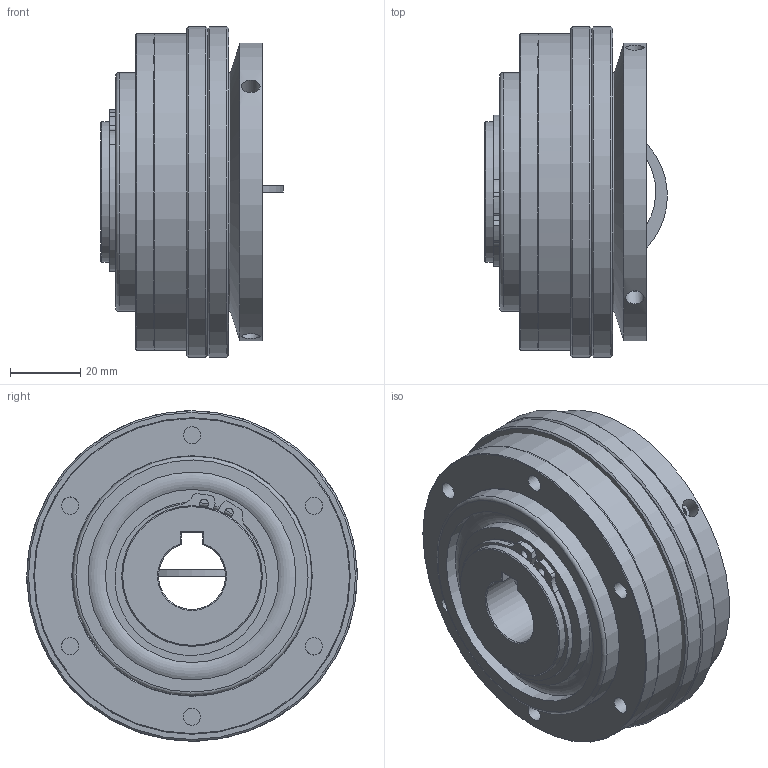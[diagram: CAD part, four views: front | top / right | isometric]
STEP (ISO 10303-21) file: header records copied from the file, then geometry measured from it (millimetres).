
FILE_DESCRIPTION( ( 'Unknown' ), '1' );
FILE_NAME( 'C:/Dokumente und Einstellungen/Sven/Desktop/hp kbk/KBK L-P-150.stp', 'Unknown', ( 'Unknown' ), ( 'Unknown' ), 'XStep 1.0', 'Unknown', ' ' );
FILE_SCHEMA( ( 'automotive_design' ) );
Length unit declared in the file: millimetre
Products named in the file (10): Assem1; Assem2; ball_bearing_-_6008_0_01_0; ball_bearing_-_6008_0_02_0; ball_bearing_-_6008_0_03_0; KBK L-P-80 Grundkörper_0; Stellring 80_0; Druckring 80_0; Flansch 80_0; a_40_0
Bounding box: 51.92 x 94 x 94 mm (x, y, z)
Volume: 438123.1 mm3; surface area: 170876.9 mm2
Topology: 19 solids, 19 shells, 261 faces, 544 edges, 347 vertices
Faces by surface type: cylinder 98, plane 96, cone 42, torus 25
Full cylindrical faces by diameter (mm): 2.5 x4, 3.242 x6, 4.917 x12, 5 x8, 5.2 x6, 37.5 x2, 40 x7, 49.2 x6, 59.1 x6, 61 x2, 62 x4, 68 x5, 70 x2, 85 x2, 87 x2, 90 x4, 94 x2
Entity records: 3280 total; most frequent: CARTESIAN_POINT 779, DIRECTION 539, ORIENTED_EDGE 330, AXIS2_PLACEMENT_3D 248, EDGE_LOOP 225, FACE_OUTER_BOUND 166, EDGE_CURVE 165, VERTEX_POINT 140
